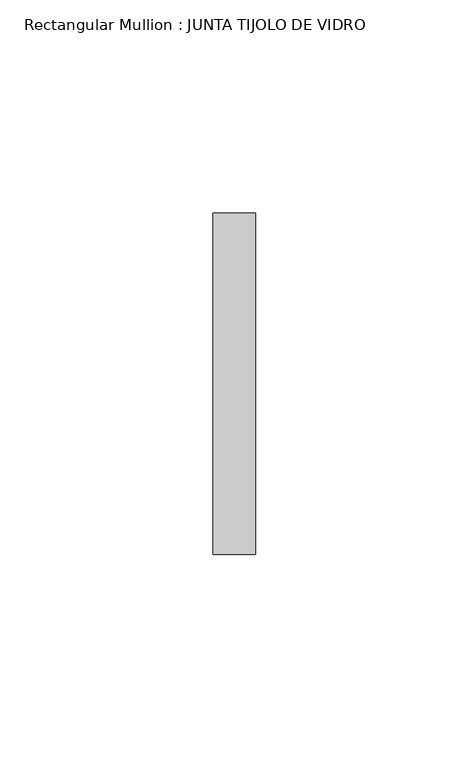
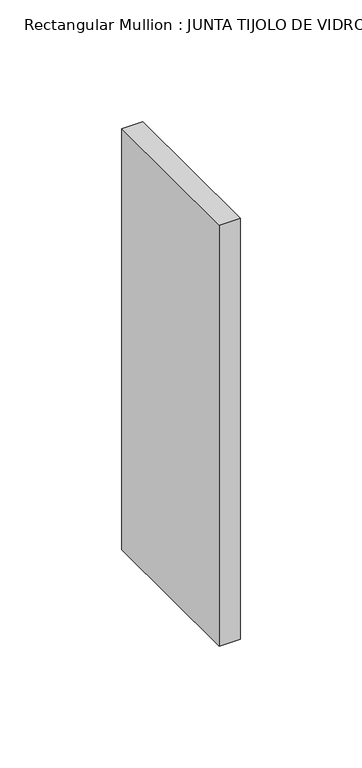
"""IFC4 building model written with IfcOpenShell, lengths in millimetres: member geometry, Rectangular Mullion : JUNTA TIJOLO DE VIDRO."""

from ifc_helpers import new_model, si_unit, frame, origin, place, context, project, spatial, polyline, outline, extrude, source, transform, mapped, element, save


def rectangular_mullion_junta_tijolo_de_vidro_3e2591da(model_context):
    return source(origin(), model_context, "Body", "SweptSolid", [
        extrude(outline(polyline([(5.0, 40.0), (5.0, -40.0), (-5.0, -40.0), (-5.0, 40.0), (5.0, 40.0)])), frame((0.0, 0.0, -211.1111111), z_axis=(0.0, 0.0, 1.0), x_axis=(1.0, 0.0, 0.0)), (0.0, 0.0, 1.0), 211.1111111),
    ])


if __name__ == "__main__":
    model = new_model("IFC4")
    model_context = context("Model", 3, world=origin())
    ifc_project = project(units=[si_unit("LENGTHUNIT", "METRE", prefix="MILLI")], contexts=[model_context])
    site = spatial("IfcSite", under=ifc_project)
    building = spatial("IfcBuilding", under=site)
    placement = place(None, origin())
    rectangular_mullion_junta_tijolo_de_vidro_shape = rectangular_mullion_junta_tijolo_de_vidro_3e2591da(model_context)
    element("IfcMember", 1, ObjectType="Rectangular Mullion : JUNTA TIJOLO DE VIDRO", at=placement, inside=building, context=model_context, shape_type="MappedRepresentation", body=[
        mapped(rectangular_mullion_junta_tijolo_de_vidro_shape, transform((0.0, 0.0, 0.0), x_axis=(1.0, 0.0, 0.0), y_axis=(0.0, 1.0, 0.0), z_axis=(0.0, 0.0, 1.0))),
    ])
    save(model, "model.ifc")
